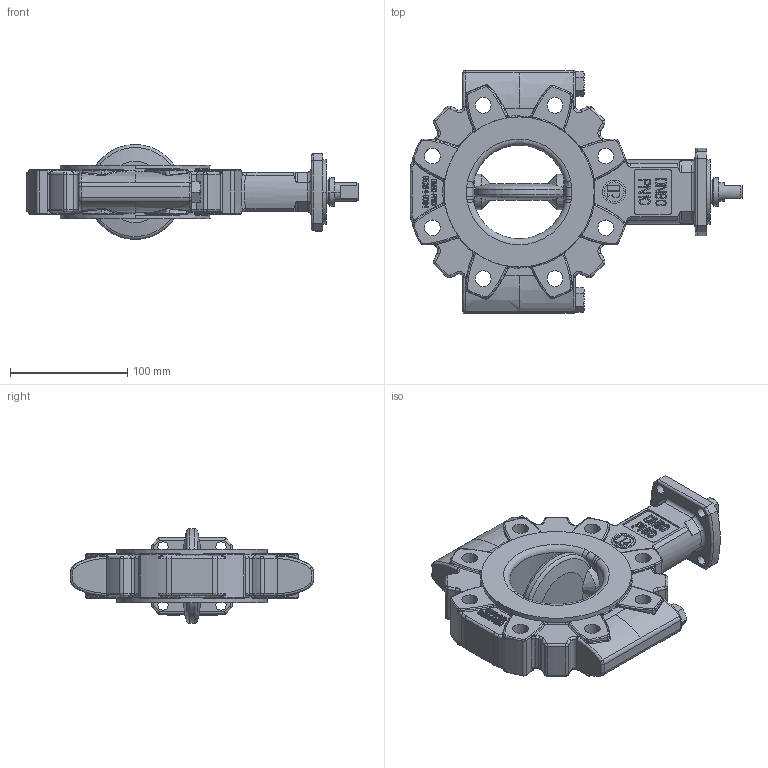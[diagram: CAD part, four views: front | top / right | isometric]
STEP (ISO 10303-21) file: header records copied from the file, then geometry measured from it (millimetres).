
FILE_DESCRIPTION((''),'2;1');
FILE_NAME('9595-20-5101_E','2013-09-16T',('smarkstein'),(''),'PRO/ENGINEER BY PARAMETRIC TECHNOLOGY CORPORATION, 2011040','PRO/ENGINEER BY PARAMETRIC TECHNOLOGY CORPORATION, 2011040','');
FILE_SCHEMA(('CONFIG_CONTROL_DESIGN'));
Products named in the file (1): 9595-20-5101_E
Bounding box: 283 x 207 x 80.89 mm (x, y, z)
Volume: 1038137.1 mm3; surface area: 176380.7 mm2
Topology: 1 solids, 2 shells, 3471 faces, 9582 edges, 6246 vertices
Faces by surface type: plane 2637, bspline 274, cylinder 240, torus 232, extrusion 48, cone 38, sphere 2
Entity records: 118750 total; most frequent: CARTESIAN_POINT 32037, ORIENTED_EDGE 19156, DIRECTION 16168, EDGE_CURVE 9578, VECTOR 7694, LINE 7646, VERTEX_POINT 6246, AXIS2_PLACEMENT_3D 4237
